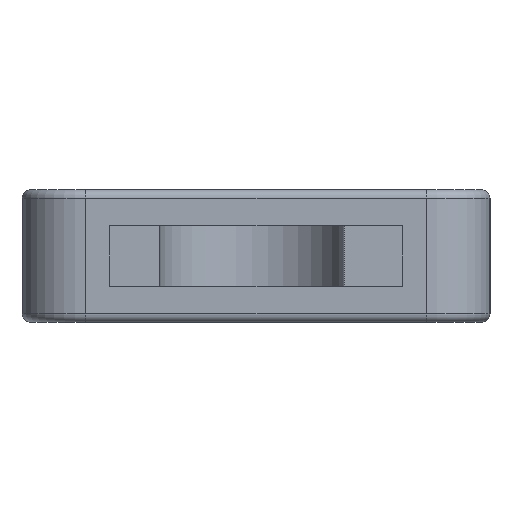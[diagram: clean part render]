
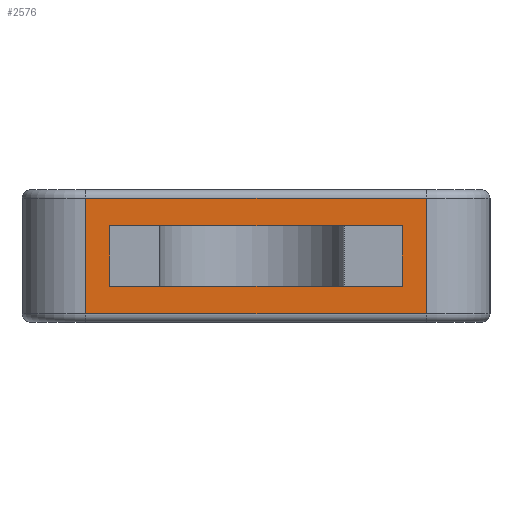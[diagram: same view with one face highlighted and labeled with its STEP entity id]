
A CAD part, left-side view. The second image highlights one B-rep face of the part: STEP entity #2576.
In plain terms, the highlighted planar face has unit normal (-1, 0, 0).
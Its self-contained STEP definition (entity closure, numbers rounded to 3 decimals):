
#44 = CYLINDRICAL_SURFACE('',#45,2.2);
#45 = AXIS2_PLACEMENT_3D('',#46,#47,#48);
#46 = CARTESIAN_POINT('',(2.2,-5.9,0.));
#47 = DIRECTION('',(0.,0.,1.));
#48 = DIRECTION('',(0.,-1.,0.));
#774 = CYLINDRICAL_SURFACE('',#775,0.3);
#775 = AXIS2_PLACEMENT_3D('',#776,#777,#778);
#776 = CARTESIAN_POINT('',(0.3,-5.9,4.3));
#777 = DIRECTION('',(-0.,1.,-0.));
#778 = DIRECTION('',(-1.,-0.,-0.));
#1812 = CYLINDRICAL_SURFACE('',#1813,0.3);
#1813 = AXIS2_PLACEMENT_3D('',#1814,#1815,#1816);
#1814 = CARTESIAN_POINT('',(0.3,-5.9,0.3));
#1815 = DIRECTION('',(-0.,1.,-0.));
#1816 = DIRECTION('',(0.,-0.,-1.));
#2450 = VERTEX_POINT('',#2451);
#2451 = CARTESIAN_POINT('',(0.,5.9,0.3));
#2488 = CYLINDRICAL_SURFACE('',#2489,2.2);
#2489 = AXIS2_PLACEMENT_3D('',#2490,#2491,#2492);
#2490 = CARTESIAN_POINT('',(2.2,5.9,0.));
#2491 = DIRECTION('',(0.,0.,1.));
#2492 = DIRECTION('',(-0.,1.,0.));
#2527 = EDGE_CURVE('',#2450,#2528,#2530,.T.);
#2528 = VERTEX_POINT('',#2529);
#2529 = CARTESIAN_POINT('',(0.,5.9,4.3));
#2530 = SURFACE_CURVE('',#2531,(#2535,#2542),.PCURVE_S1.);
#2531 = LINE('',#2532,#2533);
#2532 = CARTESIAN_POINT('',(0.,5.9,0.));
#2533 = VECTOR('',#2534,1.);
#2534 = DIRECTION('',(0.,0.,1.));
#2535 = PCURVE('',#2488,#2536);
#2536 = DEFINITIONAL_REPRESENTATION('',(#2537),#2541);
#2537 = LINE('',#2538,#2539);
#2538 = CARTESIAN_POINT('',(1.571,0.));
#2539 = VECTOR('',#2540,1.);
#2540 = DIRECTION('',(0.,1.));
#2541 = ( GEOMETRIC_REPRESENTATION_CONTEXT(2) 
PARAMETRIC_REPRESENTATION_CONTEXT() REPRESENTATION_CONTEXT('2D SPACE',''
  ) );
#2542 = PCURVE('',#2543,#2548);
#2543 = PLANE('',#2544);
#2544 = AXIS2_PLACEMENT_3D('',#2545,#2546,#2547);
#2545 = CARTESIAN_POINT('',(0.,8.1,0.));
#2546 = DIRECTION('',(1.,0.,-0.));
#2547 = DIRECTION('',(0.,-1.,0.));
#2548 = DEFINITIONAL_REPRESENTATION('',(#2549),#2553);
#2549 = LINE('',#2550,#2551);
#2550 = CARTESIAN_POINT('',(2.2,-0.));
#2551 = VECTOR('',#2552,1.);
#2552 = DIRECTION('',(0.,-1.));
#2553 = ( GEOMETRIC_REPRESENTATION_CONTEXT(2) 
PARAMETRIC_REPRESENTATION_CONTEXT() REPRESENTATION_CONTEXT('2D SPACE',''
  ) );
#2576 = ADVANCED_FACE('',(#2577,#2647),#2543,.F.);
#2577 = FACE_BOUND('',#2578,.F.);
#2578 = EDGE_LOOP('',(#2579,#2580,#2603,#2626));
#2579 = ORIENTED_EDGE('',*,*,#2527,.T.);
#2580 = ORIENTED_EDGE('',*,*,#2581,.F.);
#2581 = EDGE_CURVE('',#2582,#2528,#2584,.T.);
#2582 = VERTEX_POINT('',#2583);
#2583 = CARTESIAN_POINT('',(0.,-5.9,4.3));
#2584 = SURFACE_CURVE('',#2585,(#2589,#2596),.PCURVE_S1.);
#2585 = LINE('',#2586,#2587);
#2586 = CARTESIAN_POINT('',(0.,-5.9,4.3));
#2587 = VECTOR('',#2588,1.);
#2588 = DIRECTION('',(-0.,1.,-0.));
#2589 = PCURVE('',#2543,#2590);
#2590 = DEFINITIONAL_REPRESENTATION('',(#2591),#2595);
#2591 = LINE('',#2592,#2593);
#2592 = CARTESIAN_POINT('',(14.,-4.3));
#2593 = VECTOR('',#2594,1.);
#2594 = DIRECTION('',(-1.,0.));
#2595 = ( GEOMETRIC_REPRESENTATION_CONTEXT(2) 
PARAMETRIC_REPRESENTATION_CONTEXT() REPRESENTATION_CONTEXT('2D SPACE',''
  ) );
#2596 = PCURVE('',#774,#2597);
#2597 = DEFINITIONAL_REPRESENTATION('',(#2598),#2602);
#2598 = LINE('',#2599,#2600);
#2599 = CARTESIAN_POINT('',(0.,0.));
#2600 = VECTOR('',#2601,1.);
#2601 = DIRECTION('',(0.,1.));
#2602 = ( GEOMETRIC_REPRESENTATION_CONTEXT(2) 
PARAMETRIC_REPRESENTATION_CONTEXT() REPRESENTATION_CONTEXT('2D SPACE',''
  ) );
#2603 = ORIENTED_EDGE('',*,*,#2604,.F.);
#2604 = EDGE_CURVE('',#2605,#2582,#2607,.T.);
#2605 = VERTEX_POINT('',#2606);
#2606 = CARTESIAN_POINT('',(0.,-5.9,0.3));
#2607 = SURFACE_CURVE('',#2608,(#2612,#2619),.PCURVE_S1.);
#2608 = LINE('',#2609,#2610);
#2609 = CARTESIAN_POINT('',(0.,-5.9,0.));
#2610 = VECTOR('',#2611,1.);
#2611 = DIRECTION('',(0.,0.,1.));
#2612 = PCURVE('',#2543,#2613);
#2613 = DEFINITIONAL_REPRESENTATION('',(#2614),#2618);
#2614 = LINE('',#2615,#2616);
#2615 = CARTESIAN_POINT('',(14.,0.));
#2616 = VECTOR('',#2617,1.);
#2617 = DIRECTION('',(0.,-1.));
#2618 = ( GEOMETRIC_REPRESENTATION_CONTEXT(2) 
PARAMETRIC_REPRESENTATION_CONTEXT() REPRESENTATION_CONTEXT('2D SPACE',''
  ) );
#2619 = PCURVE('',#44,#2620);
#2620 = DEFINITIONAL_REPRESENTATION('',(#2621),#2625);
#2621 = LINE('',#2622,#2623);
#2622 = CARTESIAN_POINT('',(-1.571,0.));
#2623 = VECTOR('',#2624,1.);
#2624 = DIRECTION('',(-0.,1.));
#2625 = ( GEOMETRIC_REPRESENTATION_CONTEXT(2) 
PARAMETRIC_REPRESENTATION_CONTEXT() REPRESENTATION_CONTEXT('2D SPACE',''
  ) );
#2626 = ORIENTED_EDGE('',*,*,#2627,.T.);
#2627 = EDGE_CURVE('',#2605,#2450,#2628,.T.);
#2628 = SURFACE_CURVE('',#2629,(#2633,#2640),.PCURVE_S1.);
#2629 = LINE('',#2630,#2631);
#2630 = CARTESIAN_POINT('',(0.,-5.9,0.3));
#2631 = VECTOR('',#2632,1.);
#2632 = DIRECTION('',(-0.,1.,-0.));
#2633 = PCURVE('',#2543,#2634);
#2634 = DEFINITIONAL_REPRESENTATION('',(#2635),#2639);
#2635 = LINE('',#2636,#2637);
#2636 = CARTESIAN_POINT('',(14.,-0.3));
#2637 = VECTOR('',#2638,1.);
#2638 = DIRECTION('',(-1.,0.));
#2639 = ( GEOMETRIC_REPRESENTATION_CONTEXT(2) 
PARAMETRIC_REPRESENTATION_CONTEXT() REPRESENTATION_CONTEXT('2D SPACE',''
  ) );
#2640 = PCURVE('',#1812,#2641);
#2641 = DEFINITIONAL_REPRESENTATION('',(#2642),#2646);
#2642 = LINE('',#2643,#2644);
#2643 = CARTESIAN_POINT('',(1.571,0.));
#2644 = VECTOR('',#2645,1.);
#2645 = DIRECTION('',(0.,1.));
#2646 = ( GEOMETRIC_REPRESENTATION_CONTEXT(2) 
PARAMETRIC_REPRESENTATION_CONTEXT() REPRESENTATION_CONTEXT('2D SPACE',''
  ) );
#2647 = FACE_BOUND('',#2648,.F.);
#2648 = EDGE_LOOP('',(#2649,#2679,#2707,#2735));
#2649 = ORIENTED_EDGE('',*,*,#2650,.T.);
#2650 = EDGE_CURVE('',#2651,#2653,#2655,.T.);
#2651 = VERTEX_POINT('',#2652);
#2652 = CARTESIAN_POINT('',(0.,5.06,3.35));
#2653 = VERTEX_POINT('',#2654);
#2654 = CARTESIAN_POINT('',(0.,5.06,1.25));
#2655 = SURFACE_CURVE('',#2656,(#2660,#2667),.PCURVE_S1.);
#2656 = LINE('',#2657,#2658);
#2657 = CARTESIAN_POINT('',(0.,5.06,3.35));
#2658 = VECTOR('',#2659,1.);
#2659 = DIRECTION('',(0.,-0.,-1.));
#2660 = PCURVE('',#2543,#2661);
#2661 = DEFINITIONAL_REPRESENTATION('',(#2662),#2666);
#2662 = LINE('',#2663,#2664);
#2663 = CARTESIAN_POINT('',(3.04,-3.35));
#2664 = VECTOR('',#2665,1.);
#2665 = DIRECTION('',(0.,1.));
#2666 = ( GEOMETRIC_REPRESENTATION_CONTEXT(2) 
PARAMETRIC_REPRESENTATION_CONTEXT() REPRESENTATION_CONTEXT('2D SPACE',''
  ) );
#2667 = PCURVE('',#2668,#2673);
#2668 = PLANE('',#2669);
#2669 = AXIS2_PLACEMENT_3D('',#2670,#2671,#2672);
#2670 = CARTESIAN_POINT('',(0.,5.06,3.35));
#2671 = DIRECTION('',(0.,1.,-0.));
#2672 = DIRECTION('',(0.,-0.,-1.));
#2673 = DEFINITIONAL_REPRESENTATION('',(#2674),#2678);
#2674 = LINE('',#2675,#2676);
#2675 = CARTESIAN_POINT('',(0.,0.));
#2676 = VECTOR('',#2677,1.);
#2677 = DIRECTION('',(1.,0.));
#2678 = ( GEOMETRIC_REPRESENTATION_CONTEXT(2) 
PARAMETRIC_REPRESENTATION_CONTEXT() REPRESENTATION_CONTEXT('2D SPACE',''
  ) );
#2679 = ORIENTED_EDGE('',*,*,#2680,.T.);
#2680 = EDGE_CURVE('',#2653,#2681,#2683,.T.);
#2681 = VERTEX_POINT('',#2682);
#2682 = CARTESIAN_POINT('',(0.,-5.06,1.25));
#2683 = SURFACE_CURVE('',#2684,(#2688,#2695),.PCURVE_S1.);
#2684 = LINE('',#2685,#2686);
#2685 = CARTESIAN_POINT('',(0.,5.06,1.25));
#2686 = VECTOR('',#2687,1.);
#2687 = DIRECTION('',(0.,-1.,0.));
#2688 = PCURVE('',#2543,#2689);
#2689 = DEFINITIONAL_REPRESENTATION('',(#2690),#2694);
#2690 = LINE('',#2691,#2692);
#2691 = CARTESIAN_POINT('',(3.04,-1.25));
#2692 = VECTOR('',#2693,1.);
#2693 = DIRECTION('',(1.,0.));
#2694 = ( GEOMETRIC_REPRESENTATION_CONTEXT(2) 
PARAMETRIC_REPRESENTATION_CONTEXT() REPRESENTATION_CONTEXT('2D SPACE',''
  ) );
#2695 = PCURVE('',#2696,#2701);
#2696 = PLANE('',#2697);
#2697 = AXIS2_PLACEMENT_3D('',#2698,#2699,#2700);
#2698 = CARTESIAN_POINT('',(0.,5.06,1.25));
#2699 = DIRECTION('',(0.,0.,-1.));
#2700 = DIRECTION('',(0.,-1.,0.));
#2701 = DEFINITIONAL_REPRESENTATION('',(#2702),#2706);
#2702 = LINE('',#2703,#2704);
#2703 = CARTESIAN_POINT('',(0.,-0.));
#2704 = VECTOR('',#2705,1.);
#2705 = DIRECTION('',(1.,0.));
#2706 = ( GEOMETRIC_REPRESENTATION_CONTEXT(2) 
PARAMETRIC_REPRESENTATION_CONTEXT() REPRESENTATION_CONTEXT('2D SPACE',''
  ) );
#2707 = ORIENTED_EDGE('',*,*,#2708,.T.);
#2708 = EDGE_CURVE('',#2681,#2709,#2711,.T.);
#2709 = VERTEX_POINT('',#2710);
#2710 = CARTESIAN_POINT('',(0.,-5.06,3.35));
#2711 = SURFACE_CURVE('',#2712,(#2716,#2723),.PCURVE_S1.);
#2712 = LINE('',#2713,#2714);
#2713 = CARTESIAN_POINT('',(0.,-5.06,1.25));
#2714 = VECTOR('',#2715,1.);
#2715 = DIRECTION('',(0.,0.,1.));
#2716 = PCURVE('',#2543,#2717);
#2717 = DEFINITIONAL_REPRESENTATION('',(#2718),#2722);
#2718 = LINE('',#2719,#2720);
#2719 = CARTESIAN_POINT('',(13.16,-1.25));
#2720 = VECTOR('',#2721,1.);
#2721 = DIRECTION('',(0.,-1.));
#2722 = ( GEOMETRIC_REPRESENTATION_CONTEXT(2) 
PARAMETRIC_REPRESENTATION_CONTEXT() REPRESENTATION_CONTEXT('2D SPACE',''
  ) );
#2723 = PCURVE('',#2724,#2729);
#2724 = PLANE('',#2725);
#2725 = AXIS2_PLACEMENT_3D('',#2726,#2727,#2728);
#2726 = CARTESIAN_POINT('',(0.,-5.06,1.25));
#2727 = DIRECTION('',(0.,-1.,0.));
#2728 = DIRECTION('',(0.,0.,1.));
#2729 = DEFINITIONAL_REPRESENTATION('',(#2730),#2734);
#2730 = LINE('',#2731,#2732);
#2731 = CARTESIAN_POINT('',(0.,0.));
#2732 = VECTOR('',#2733,1.);
#2733 = DIRECTION('',(1.,0.));
#2734 = ( GEOMETRIC_REPRESENTATION_CONTEXT(2) 
PARAMETRIC_REPRESENTATION_CONTEXT() REPRESENTATION_CONTEXT('2D SPACE',''
  ) );
#2735 = ORIENTED_EDGE('',*,*,#2736,.T.);
#2736 = EDGE_CURVE('',#2709,#2651,#2737,.T.);
#2737 = SURFACE_CURVE('',#2738,(#2742,#2749),.PCURVE_S1.);
#2738 = LINE('',#2739,#2740);
#2739 = CARTESIAN_POINT('',(0.,-5.06,3.35));
#2740 = VECTOR('',#2741,1.);
#2741 = DIRECTION('',(-0.,1.,0.));
#2742 = PCURVE('',#2543,#2743);
#2743 = DEFINITIONAL_REPRESENTATION('',(#2744),#2748);
#2744 = LINE('',#2745,#2746);
#2745 = CARTESIAN_POINT('',(13.16,-3.35));
#2746 = VECTOR('',#2747,1.);
#2747 = DIRECTION('',(-1.,-0.));
#2748 = ( GEOMETRIC_REPRESENTATION_CONTEXT(2) 
PARAMETRIC_REPRESENTATION_CONTEXT() REPRESENTATION_CONTEXT('2D SPACE',''
  ) );
#2749 = PCURVE('',#2750,#2755);
#2750 = PLANE('',#2751);
#2751 = AXIS2_PLACEMENT_3D('',#2752,#2753,#2754);
#2752 = CARTESIAN_POINT('',(0.,-5.06,3.35));
#2753 = DIRECTION('',(0.,-0.,1.));
#2754 = DIRECTION('',(-0.,1.,0.));
#2755 = DEFINITIONAL_REPRESENTATION('',(#2756),#2760);
#2756 = LINE('',#2757,#2758);
#2757 = CARTESIAN_POINT('',(0.,0.));
#2758 = VECTOR('',#2759,1.);
#2759 = DIRECTION('',(1.,0.));
#2760 = ( GEOMETRIC_REPRESENTATION_CONTEXT(2) 
PARAMETRIC_REPRESENTATION_CONTEXT() REPRESENTATION_CONTEXT('2D SPACE',''
  ) );
